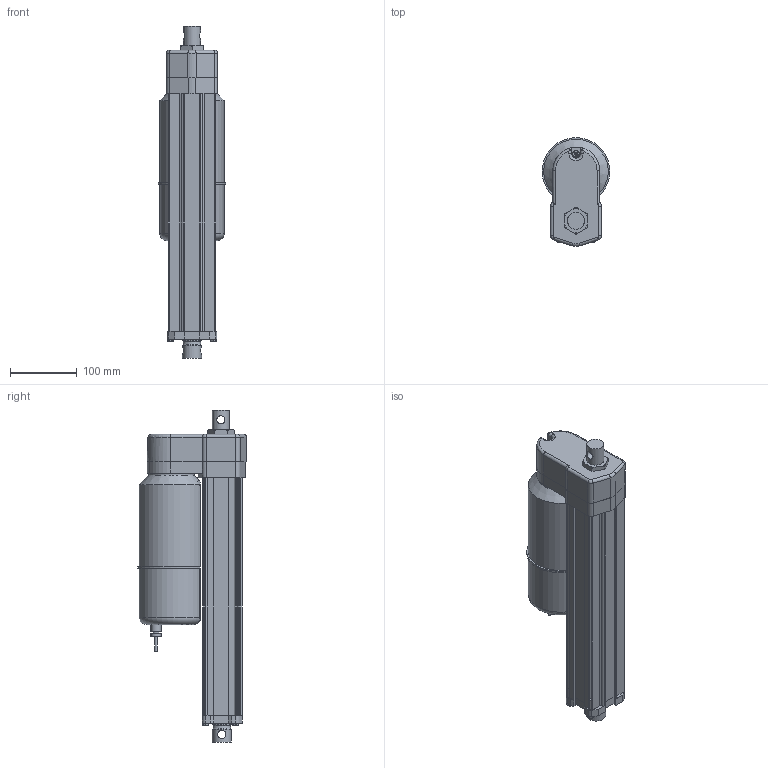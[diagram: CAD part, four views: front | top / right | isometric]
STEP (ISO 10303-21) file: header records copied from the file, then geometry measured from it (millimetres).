
FILE_DESCRIPTION (( 'STEP AP214' ), '1' );
FILE_NAME ('AA22-05B65M-25M0N-tollo.step', '2020-04-14T18:43:57', ( '' ), ( '' ), 'SwSTEP 2.0', 'SolidWorks 2010', '' );
FILE_SCHEMA (( 'AUTOMOTIVE_DESIGN' ));
Length unit declared in the file: millimetre
Products named in the file (8): Electrak-LA24-Motor-AA22-05B65M-25M0N-tollo_Electrak-LA24-Motor-AA22-05B65M-25M0N-tollo; Electrak-LA24-Rear-AA22-05B65M-25M0N-tollo_Electrak-LA24-Rear-AA22-05B65M-25M0N-tollo; Electrak-LA24-Tube-AA22-05B65M-25M0N-tollo_Electrak-LA24-Tube-AA22-05B65M-25M0N-tollo; Electrak-LA24-Rod-AA22-05B65M-25M0N-tollo_Electrak-LA24-Rod-AA22-05B65M-25M0N-tollo; Electrak-LA24-Plate-AA22-05B65M-25M0N-tollo_Electrak-LA24-Plate-AA22-05B65M-25M0N-tollo; Screw-MFX-H-M5_Screw-MFX-H-M5x24H; Screw-M6S-M5-AA22-05B65M-25M0N-tollo_Screw-M6S-M5-AA22-05B65M-25M0N-tollo; AA22-05B65M-25M0N-tollo
Assembly tree (10 placements, depth 2):
  AA22-05B65M-25M0N-tollo
    Screw-MFX-H-M5_Screw-MFX-H-M5x24H
    Electrak-LA24-Plate-AA22-05B65M-25M0N-tollo_Electrak-LA24-Plate-AA22-05B65M-25M0N-tollo
    Electrak-LA24-Rod-AA22-05B65M-25M0N-tollo_Electrak-LA24-Rod-AA22-05B65M-25M0N-tollo
    Electrak-LA24-Motor-AA22-05B65M-25M0N-tollo_Electrak-LA24-Motor-AA22-05B65M-25M0N-tollo
    Electrak-LA24-Tube-AA22-05B65M-25M0N-tollo_Electrak-LA24-Tube-AA22-05B65M-25M0N-tollo
    Screw-M6S-M5-AA22-05B65M-25M0N-tollo_Screw-M6S-M5-AA22-05B65M-25M0N-tollo  x4
    Electrak-LA24-Rear-AA22-05B65M-25M0N-tollo_Electrak-LA24-Rear-AA22-05B65M-25M0N-tollo
Bounding box: 100.99 x 162.5 x 495.7 mm (x, y, z)
Volume: 2750985.9 mm3; surface area: 384161.2 mm2
Topology: 10 solids, 10 shells, 353 faces, 886 edges, 572 vertices
Faces by surface type: plane 174, cylinder 128, cone 31, torus 15, bspline 3, sphere 2
Full cylindrical faces by diameter (mm): 4 x1, 4.126 x5, 4.8 x6, 5 x5, 5.6 x4, 7.878 x4, 9.3 x1, 10 x1, 12.2 x2, 15 x2, 25.4 x1, 28.6 x4, 47.625 x1, 68 x1
Entity records: 9633 total; most frequent: CARTESIAN_POINT 2397, DIRECTION 1446, ORIENTED_EDGE 1338, EDGE_CURVE 669, AXIS2_PLACEMENT_3D 527, VERTEX_POINT 460, LINE 392, VECTOR 392
